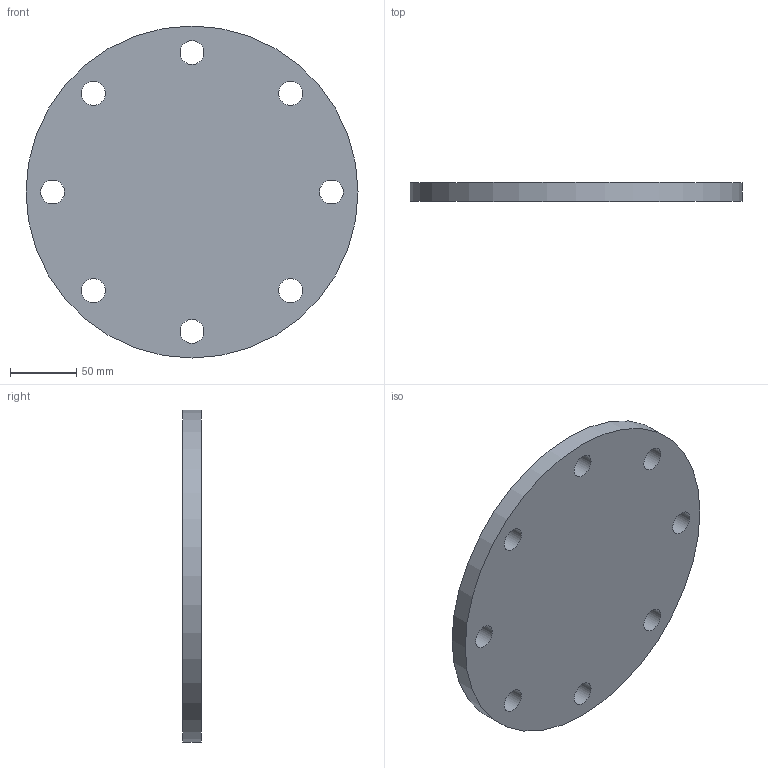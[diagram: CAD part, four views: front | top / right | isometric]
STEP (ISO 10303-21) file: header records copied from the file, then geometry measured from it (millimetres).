
FILE_DESCRIPTION(/* description */ (''),/* implementation_level */ '2;1');
FILE_NAME(/* name */ 'Z:\Geberit\Export\NewStep\368748.stp',/* time_stamp */ '2014-04-02T08:01:32+02:00',/* author */ ('nelson'),/* organization */ (''),/* preprocessor_version */ 'ST-DEVELOPER v15.2',/* originating_system */ 'Autodesk Inventor 2014',/* authorisation */ '');
FILE_SCHEMA (('AUTOMOTIVE_DESIGN { 1 0 10303 214 3 1 1 }'));
Length unit declared in the file: millimetre
Products named in the file (1): 368748
Bounding box: 250 x 14 x 250 mm (x, y, z)
Volume: 658722.9 mm3; surface area: 111432.3 mm2
Topology: 1 solids, 1 shells, 11 faces, 27 edges, 18 vertices
Faces by surface type: cylinder 9, plane 2
Full cylindrical faces by diameter (mm): 18 x8, 250 x1
Entity records: 347 total; most frequent: DIRECTION 60, CARTESIAN_POINT 48, EDGE_LOOP 36, ORIENTED_EDGE 36, AXIS2_PLACEMENT_3D 30, FACE_BOUND 27, CIRCLE 18, VERTEX_POINT 18
